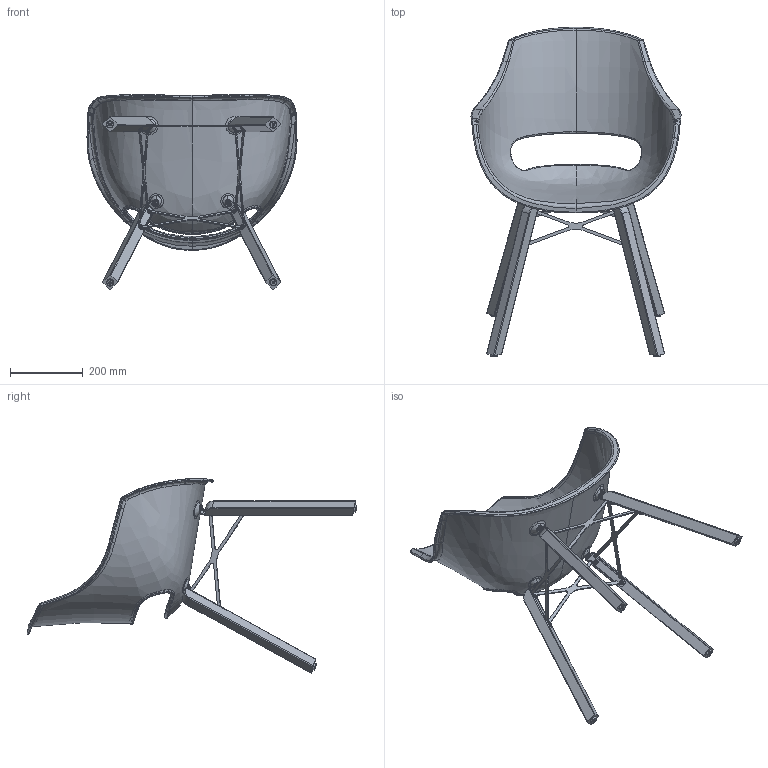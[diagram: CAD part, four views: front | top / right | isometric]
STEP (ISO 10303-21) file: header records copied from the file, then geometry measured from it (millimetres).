
FILE_DESCRIPTION (( 'STEP AP203' ), '1' );
FILE_NAME ('O montaj iroko.STEP', '2014-07-17T11:08:15', ( '' ), ( '' ), 'SwSTEP 2.0', 'SolidWorks 2011', '' );
FILE_SCHEMA (( 'CONFIG_CONTROL_DESIGN' ));
Products named in the file (9): O montaj iroko; vida10; vida; ayak ucu; KARE AYAK; 3D_MODEL_OPAL k2_Default; O 霵 kulak; O arka kulak; O ara sac
Assembly tree (29 placements, depth 2):
  O montaj iroko
    vida10  x4
    KARE AYAK  x4
    vida  x8
    O ara sac  x4
    ayak ucu  x4
    O 霵 kulak  x2
    O arka kulak  x2
    3D_MODEL_OPAL k2_Default
Bounding box: 576.06 x 904.36 x 534.52 mm (x, y, z)
Volume: 1565300.8 mm3; surface area: 1184516.8 mm2
Topology: 28 solids, 46 shells, 1142 faces, 2774 edges, 1703 vertices
Faces by surface type: bspline 428, plane 390, cylinder 256, torus 40, sphere 20, cone 8
Entity records: 48992 total; most frequent: CARTESIAN_POINT 36689, ORIENTED_EDGE 2883, EDGE_CURVE 1507, DIRECTION 1139, VERTEX_POINT 903, B_SPLINE_CURVE_WITH_KNOTS 784, EDGE_LOOP 654, ADVANCED_FACE 631
